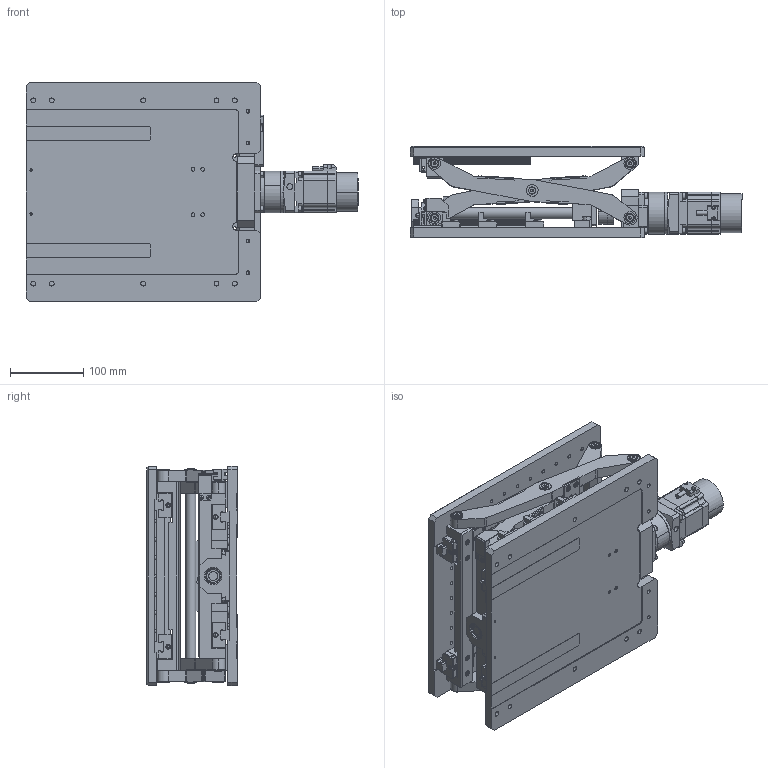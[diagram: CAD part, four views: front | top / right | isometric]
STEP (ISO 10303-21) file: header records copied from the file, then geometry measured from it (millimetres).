
FILE_DESCRIPTION (( 'STEP AP203' ), '1' );
FILE_NAME ('PT-GD332Íâ·¢.STEP', '2025-04-09T09:58:27', ( '' ), ( '' ), 'SwSTEP 2.0', 'SolidWorks 2023', '' );
FILE_SCHEMA (( 'CONFIG_CONTROL_DESIGN' ));
Length unit declared in the file: millimetre
Products named in the file (1): PT-GD332外发
Bounding box: 453.1 x 123.69 x 300 mm (x, y, z)
Surface area: 823064.3 mm2 (no closed solid volume)
Topology: 0 solids, 173 shells, 1845 faces, 7961 edges, 6163 vertices
Faces by surface type: plane 887, cylinder 739, cone 112, torus 60, sphere 36, bspline 11
Entity records: 87597 total; most frequent: CARTESIAN_POINT 22259, DIRECTION 13851, ORIENTED_EDGE 11506, EDGE_CURVE 7837, VERTEX_POINT 6103, AXIS2_PLACEMENT_3D 4650, VECTOR 4551, LINE 4551
